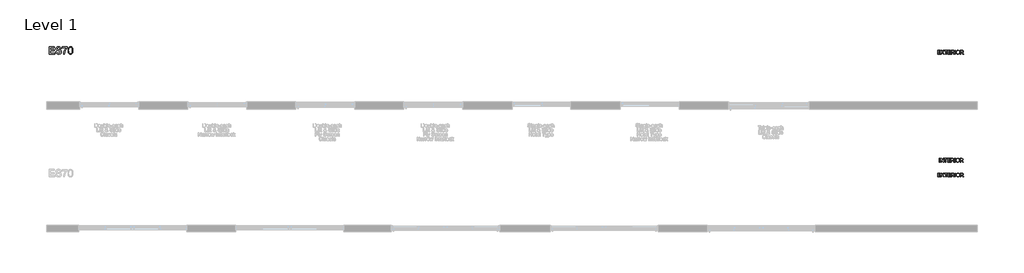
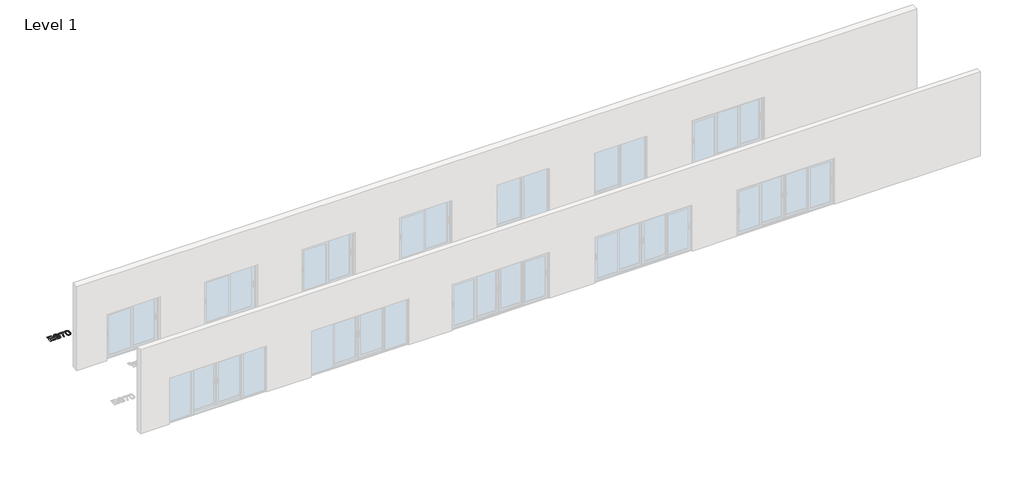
# One storey, part 13 of 13: 4 proxies.
"""IFC4 building model written with IfcOpenShell, lengths in millimetres."""

from ifc_helpers import new_model, si_unit, origin, origin_with_axes, place, context, project, spatial, polyline, outline, extrude, element, save

model = new_model("IFC4")

# Units and contexts
model_context = context("Model", 3, world=origin())
ifc_project = project(units=[si_unit("LENGTHUNIT", "METRE", prefix="MILLI")], contexts=[model_context])

# Site, building, storey
site = spatial("IfcSite", under=ifc_project)
building = spatial("IfcBuilding", under=site)
storey = spatial("IfcBuildingStorey", under=building, Name="Level 1", Elevation=0.0)

# Proxies
placement = place(None, origin())
element("IfcBuildingElementProxy", 1, Name="150mm Arial", ObjectType="150mm Arial", at=placement, inside=storey, context=model_context, shape_type="SweptSolid", body=[
    extrude(outline(polyline([(28115.5972472, 2081.2868462), (28115.5972472, 2231.9713114), (28223.9017066, 2231.9713114), (28223.9017066, 2213.1357532), (28134.4328053, 2213.1357532), (28134.4328053, 2168.4013026), (28219.192817, 2168.4013026), (28219.192817, 2149.5657445), (28134.4328053, 2149.5657445), (28134.4328053, 2100.1224043), (28226.2561513, 2100.1224043), (28226.2561513, 2081.2868462), (28115.5972472, 2081.2868462)])), origin_with_axes(), (0.0, 0.0, 1.0), 10.0),
    extrude(outline(polyline([(28238.0283752, 2081.2868462), (28296.1169422, 2163.3981075), (28247.4461543, 2231.9713114), (28270.0341088, 2231.9713114), (28297.4413174, 2193.3804901), (28306.6751555, 2178.3341165), (28317.4908861, 2193.6380075), (28344.6037892, 2231.9713114), (28367.5228375, 2231.9713114), (28318.8520495, 2163.1773783), (28376.9406166, 2081.2868462), (28354.3526621, 2081.2868462), (28315.6514762, 2135.8805342), (28307.5948605, 2147.2112997), (28298.7289044, 2134.7768883), (28260.9474235, 2081.2868462), (28238.0283752, 2081.2868462)])), origin_with_axes(), (0.0, 0.0, 1.0), 10.0),
    extrude(outline(polyline([(28433.447291, 2081.2868462), (28433.447291, 2213.1357532), (28384.0039509, 2213.1357532), (28384.0039509, 2231.9713114), (28501.7261893, 2231.9713114), (28501.7261893, 2213.1357532), (28452.2828492, 2213.1357532), (28452.2828492, 2081.2868462), (28433.447291, 2081.2868462)])), origin_with_axes(), (0.0, 0.0, 1.0), 10.0),
    extrude(outline(polyline([(28522.9161922, 2081.2868462), (28522.9161922, 2231.9713114), (28631.2206516, 2231.9713114), (28631.2206516, 2213.1357532), (28541.7517504, 2213.1357532), (28541.7517504, 2168.4013026), (28626.5117621, 2168.4013026), (28626.5117621, 2149.5657445), (28541.7517504, 2149.5657445), (28541.7517504, 2100.1224043), (28633.5750964, 2100.1224043), (28633.5750964, 2081.2868462), (28522.9161922, 2081.2868462)])), origin_with_axes(), (0.0, 0.0, 1.0), 10.0),
    extrude(outline(polyline([(28661.8284336, 2081.2868462), (28661.8284336, 2231.9713114), (28726.7596058, 2231.9713114), (28756.9075353, 2227.9062153), (28766.1873586, 2222.2776208), (28773.3886487, 2213.5220293), (28778.0101662, 2202.6649119), (28779.5506721, 2190.7317397), (28776.9984907, 2175.8877012), (28769.3419467, 2163.5820485), (28756.3511138, 2154.5597425), (28737.7960656, 2149.5657445), (28748.5014317, 2141.5091288), (28763.7685345, 2122.1217476), (28788.8948748, 2081.2868462), (28767.005896, 2081.2868462), (28747.3977857, 2112.5200275), (28733.2343289, 2133.1949957), (28723.2831209, 2142.9622626), (28714.3251943, 2146.5491121), (28703.3990991, 2147.2112997), (28680.6639918, 2147.2112997), (28680.6639918, 2081.2868462), (28661.8284336, 2081.2868462)]), holes=[polyline([(28680.6639918, 2166.0468578), (28722.8232684, 2166.0468578), (28744.325971, 2168.7140023), (28756.5396533, 2177.2488646), (28760.7151139, 2190.0327639), (28758.7239526, 2199.2206168), (28752.7504687, 2206.6242419), (28742.4727655, 2211.5078754), (28727.5689462, 2213.1357532), (28680.6639918, 2213.1357532), (28680.6639918, 2166.0468578)])]), origin_with_axes(), (0.0, 0.0, 1.0), 10.0),
    extrude(outline(polyline([(28814.8673436, 2081.2868462), (28814.8673436, 2231.9713114), (28833.7029018, 2231.9713114), (28833.7029018, 2081.2868462), (28814.8673436, 2081.2868462)])), origin_with_axes(), (0.0, 0.0, 1.0), 10.0),
    extrude(outline(polyline([(28864.3106838, 2154.642516), (28869.332273, 2187.9634277), (28875.6092595, 2201.5819593), (28884.3970407, 2213.1725414), (28907.3988625, 2229.0374525), (28936.2316138, 2234.3257562), (28955.996074, 2231.8425527), (28973.7187891, 2224.3929423), (28988.4340689, 2212.5011568), (28999.1762232, 2196.691428), (29005.7429168, 2177.7271112), (29007.9318147, 2156.3715614), (29005.6279537, 2134.730903), (28998.7163707, 2115.4998717), (28987.5787433, 2099.6625518), (28972.5967491, 2088.2030277), (28955.0257853, 2081.250058), (28936.1212492, 2078.9324014), (28916.0532864, 2081.4937798), (28898.2294037, 2089.177915), (28883.5509121, 2101.2904296), (28872.9191225, 2117.1369466), (28866.4627934, 2135.370098), (28864.3106838, 2154.642516)]), holes=[polyline([(28883.1462419, 2154.458575), (28886.9124339, 2130.8865362), (28898.2110096, 2112.9246977), (28915.1933622, 2101.5571441), (28936.0108846, 2097.7679595), (28957.1319097, 2101.5939323), (28974.1418534, 2113.0718505), (28985.3576558, 2131.5855119), (28989.0962565, 2156.5187142), (28987.4959699, 2173.1929656), (28982.6951098, 2187.6047428), (28974.8178366, 2199.3907622), (28963.9883104, 2208.1877404), (28950.923901, 2213.6645836), (28936.3419784, 2215.490198), (28916.0808775, 2211.9723264), (28898.8548031, 2201.4187117), (28887.0733822, 2182.6429344), (28883.1462419, 2154.458575)])]), origin_with_axes(), (0.0, 0.0, 1.0), 10.0),
    extrude(outline(polyline([(29033.8307072, 2081.2868462), (29033.8307072, 2231.9713114), (29098.7618793, 2231.9713114), (29128.9098088, 2227.9062153), (29138.1896321, 2222.2776208), (29145.3909222, 2213.5220293), (29150.0124398, 2202.6649119), (29151.5529456, 2190.7317397), (29149.0007643, 2175.8877012), (29141.3442202, 2163.5820485), (29128.3533873, 2154.5597425), (29109.7983392, 2149.5657445), (29120.5037052, 2141.5091288), (29135.770808, 2122.1217476), (29160.8971483, 2081.2868462), (29139.0081696, 2081.2868462), (29119.4000592, 2112.5200275), (29105.2366024, 2133.1949957), (29095.2853944, 2142.9622626), (29086.3274679, 2146.5491121), (29075.4013726, 2147.2112997), (29052.6662653, 2147.2112997), (29052.6662653, 2081.2868462), (29033.8307072, 2081.2868462)]), holes=[polyline([(29052.6662653, 2166.0468578), (29094.825542, 2166.0468578), (29116.3282446, 2168.7140023), (29128.5419268, 2177.2488646), (29132.7173875, 2190.0327639), (29130.7262262, 2199.2206168), (29124.7527423, 2206.6242419), (29114.475039, 2211.5078754), (29099.5712197, 2213.1357532), (29052.6662653, 2213.1357532), (29052.6662653, 2166.0468578)])]), origin_with_axes(), (0.0, 0.0, 1.0), 10.0),
])
element("IfcBuildingElementProxy", 2, Name="150mm Arial", ObjectType="150mm Arial", at=placement, inside=storey, context=model_context, shape_type="SweptSolid", body=[
    extrude(outline(polyline([(28177.951692, -2318.7131538), (28177.951692, -2168.0286886), (28196.7872501, -2168.0286886), (28196.7872501, -2318.7131538), (28177.951692, -2318.7131538)])), origin_with_axes(), (0.0, 0.0, 1.0), 10.0),
    extrude(outline(polyline([(28234.4583664, -2318.7131538), (28234.4583664, -2168.0286886), (28254.6182998, -2168.0286886), (28333.3450467, -2287.4063961), (28333.3450467, -2168.0286886), (28352.1806049, -2168.0286886), (28352.1806049, -2318.7131538), (28332.0206715, -2318.7131538), (28253.2939246, -2199.2986582), (28253.2939246, -2318.7131538), (28234.4583664, -2318.7131538)])), origin_with_axes(), (0.0, 0.0, 1.0), 10.0),
    extrude(outline(polyline([(28422.8139479, -2318.7131538), (28422.8139479, -2186.8642468), (28373.3706078, -2186.8642468), (28373.3706078, -2168.0286886), (28491.0928463, -2168.0286886), (28491.0928463, -2186.8642468), (28441.6495061, -2186.8642468), (28441.6495061, -2318.7131538), (28422.8139479, -2318.7131538)])), origin_with_axes(), (0.0, 0.0, 1.0), 10.0),
    extrude(outline(polyline([(28512.2828492, -2318.7131538), (28512.2828492, -2168.0286886), (28620.5873086, -2168.0286886), (28620.5873086, -2186.8642468), (28531.1184073, -2186.8642468), (28531.1184073, -2231.5986974), (28615.878419, -2231.5986974), (28615.878419, -2250.4342555), (28531.1184073, -2250.4342555), (28531.1184073, -2299.8775957), (28622.9417533, -2299.8775957), (28622.9417533, -2318.7131538), (28512.2828492, -2318.7131538)])), origin_with_axes(), (0.0, 0.0, 1.0), 10.0),
    extrude(outline(polyline([(28651.1950906, -2318.7131538), (28651.1950906, -2168.0286886), (28716.1262627, -2168.0286886), (28746.2741922, -2172.0937847), (28755.5540155, -2177.7223792), (28762.7553056, -2186.4779707), (28767.3768232, -2197.3350881), (28768.917329, -2209.2682603), (28766.3651477, -2224.1122988), (28758.7086036, -2236.4179515), (28745.7177707, -2245.4402575), (28727.1627226, -2250.4342555), (28737.8680886, -2258.4908712), (28753.1351914, -2277.8782524), (28778.2615317, -2318.7131538), (28756.372553, -2318.7131538), (28736.7644426, -2287.4799725), (28722.6009858, -2266.8050043), (28712.6497778, -2257.0377374), (28703.6918513, -2253.4508879), (28692.765756, -2252.7887003), (28670.0306487, -2252.7887003), (28670.0306487, -2318.7131538), (28651.1950906, -2318.7131538)]), holes=[polyline([(28670.0306487, -2233.9531422), (28712.1899254, -2233.9531422), (28733.692628, -2231.2859977), (28745.9063102, -2222.7511354), (28750.0817709, -2209.9672361), (28748.0906096, -2200.7793832), (28742.1171257, -2193.3757581), (28731.8394224, -2188.4921246), (28716.9356031, -2186.8642468), (28670.0306487, -2186.8642468), (28670.0306487, -2233.9531422)])]), origin_with_axes(), (0.0, 0.0, 1.0), 10.0),
    extrude(outline(polyline([(28804.2340005, -2318.7131538), (28804.2340005, -2168.0286886), (28823.0695587, -2168.0286886), (28823.0695587, -2318.7131538), (28804.2340005, -2318.7131538)])), origin_with_axes(), (0.0, 0.0, 1.0), 10.0),
    extrude(outline(polyline([(28853.6773407, -2245.357484), (28858.6989299, -2212.0365723), (28864.9759165, -2198.4180407), (28873.7636976, -2186.8274586), (28896.7655194, -2170.9625475), (28925.5982708, -2165.6742438), (28945.3627309, -2168.1574473), (28963.0854461, -2175.6070577), (28977.8007259, -2187.4988432), (28988.5428801, -2203.308572), (28995.1095737, -2222.2728888), (28997.2984716, -2243.6284386), (28994.9946106, -2265.269097), (28988.0830276, -2284.5001283), (28976.9454002, -2300.3374482), (28961.963406, -2311.7969723), (28944.3924422, -2318.749942), (28925.4879062, -2321.0675986), (28905.4199433, -2318.5062202), (28887.5960607, -2310.822085), (28872.917569, -2298.7095704), (28862.2857794, -2282.8630534), (28855.8294504, -2264.629902), (28853.6773407, -2245.357484)]), holes=[polyline([(28872.5128989, -2245.541425), (28876.2790908, -2269.1134638), (28887.5776666, -2287.0753023), (28904.5600192, -2298.4428559), (28925.3775416, -2302.2320405), (28946.4985666, -2298.4060677), (28963.5085104, -2286.9281495), (28974.7243127, -2268.4144881), (28978.4629135, -2243.4812858), (28976.8626268, -2226.8070344), (28972.0617667, -2212.3952572), (28964.1844935, -2200.6092378), (28953.3549673, -2191.8122596), (28940.2905579, -2186.3354164), (28925.7086354, -2184.509802), (28905.4475345, -2188.0276736), (28888.22146, -2198.5812883), (28876.4400392, -2217.3570656), (28872.5128989, -2245.541425)])]), origin_with_axes(), (0.0, 0.0, 1.0), 10.0),
    extrude(outline(polyline([(29023.1973641, -2318.7131538), (29023.1973641, -2168.0286886), (29088.1285362, -2168.0286886), (29118.2764657, -2172.0937847), (29127.5562891, -2177.7223792), (29134.7575791, -2186.4779707), (29139.3790967, -2197.3350881), (29140.9196025, -2209.2682603), (29138.3674212, -2224.1122988), (29130.7108772, -2236.4179515), (29117.7200442, -2245.4402575), (29099.1649961, -2250.4342555), (29109.8703621, -2258.4908712), (29125.1374649, -2277.8782524), (29150.2638052, -2318.7131538), (29128.3748265, -2318.7131538), (29108.7667162, -2287.4799725), (29094.6032593, -2266.8050043), (29084.6520514, -2257.0377374), (29075.6941248, -2253.4508879), (29064.7680295, -2252.7887003), (29042.0329222, -2252.7887003), (29042.0329222, -2318.7131538), (29023.1973641, -2318.7131538)]), holes=[polyline([(29042.0329222, -2233.9531422), (29084.1921989, -2233.9531422), (29105.6949015, -2231.2859977), (29117.9085837, -2222.7511354), (29122.0840444, -2209.9672361), (29120.0928831, -2200.7793832), (29114.1193992, -2193.3757581), (29103.8416959, -2188.4921246), (29088.9378766, -2186.8642468), (29042.0329222, -2186.8642468), (29042.0329222, -2233.9531422)])]), origin_with_axes(), (0.0, 0.0, 1.0), 10.0),
])
element("IfcBuildingElementProxy", 3, Name="150mm Arial", ObjectType="150mm Arial", at=placement, inside=storey, context=model_context, shape_type="SweptSolid", body=[
    extrude(outline(polyline([(28115.5972472, -2918.7131538), (28115.5972472, -2768.0286886), (28223.9017066, -2768.0286886), (28223.9017066, -2786.8642468), (28134.4328053, -2786.8642468), (28134.4328053, -2831.5986974), (28219.192817, -2831.5986974), (28219.192817, -2850.4342555), (28134.4328053, -2850.4342555), (28134.4328053, -2899.8775957), (28226.2561513, -2899.8775957), (28226.2561513, -2918.7131538), (28115.5972472, -2918.7131538)])), origin_with_axes(), (0.0, 0.0, 1.0), 10.0),
    extrude(outline(polyline([(28238.0283752, -2918.7131538), (28296.1169422, -2836.6018925), (28247.4461543, -2768.0286886), (28270.0341088, -2768.0286886), (28297.4413174, -2806.6195099), (28306.6751555, -2821.6658835), (28317.4908861, -2806.3619925), (28344.6037892, -2768.0286886), (28367.5228375, -2768.0286886), (28318.8520495, -2836.8226217), (28376.9406166, -2918.7131538), (28354.3526621, -2918.7131538), (28315.6514762, -2864.1194658), (28307.5948605, -2852.7887003), (28298.7289044, -2865.2231117), (28260.9474235, -2918.7131538), (28238.0283752, -2918.7131538)])), origin_with_axes(), (0.0, 0.0, 1.0), 10.0),
    extrude(outline(polyline([(28433.447291, -2918.7131538), (28433.447291, -2786.8642468), (28384.0039509, -2786.8642468), (28384.0039509, -2768.0286886), (28501.7261893, -2768.0286886), (28501.7261893, -2786.8642468), (28452.2828492, -2786.8642468), (28452.2828492, -2918.7131538), (28433.447291, -2918.7131538)])), origin_with_axes(), (0.0, 0.0, 1.0), 10.0),
    extrude(outline(polyline([(28522.9161922, -2918.7131538), (28522.9161922, -2768.0286886), (28631.2206516, -2768.0286886), (28631.2206516, -2786.8642468), (28541.7517504, -2786.8642468), (28541.7517504, -2831.5986974), (28626.5117621, -2831.5986974), (28626.5117621, -2850.4342555), (28541.7517504, -2850.4342555), (28541.7517504, -2899.8775957), (28633.5750964, -2899.8775957), (28633.5750964, -2918.7131538), (28522.9161922, -2918.7131538)])), origin_with_axes(), (0.0, 0.0, 1.0), 10.0),
    extrude(outline(polyline([(28661.8284336, -2918.7131538), (28661.8284336, -2768.0286886), (28726.7596058, -2768.0286886), (28756.9075353, -2772.0937847), (28766.1873586, -2777.7223792), (28773.3886487, -2786.4779707), (28778.0101662, -2797.3350881), (28779.5506721, -2809.2682603), (28776.9984907, -2824.1122988), (28769.3419467, -2836.4179515), (28756.3511138, -2845.4402575), (28737.7960656, -2850.4342555), (28748.5014317, -2858.4908712), (28763.7685345, -2877.8782524), (28788.8948748, -2918.7131538), (28767.005896, -2918.7131538), (28747.3977857, -2887.4799725), (28733.2343289, -2866.8050043), (28723.2831209, -2857.0377374), (28714.3251943, -2853.4508879), (28703.3990991, -2852.7887003), (28680.6639918, -2852.7887003), (28680.6639918, -2918.7131538), (28661.8284336, -2918.7131538)]), holes=[polyline([(28680.6639918, -2833.9531422), (28722.8232684, -2833.9531422), (28744.325971, -2831.2859977), (28756.5396533, -2822.7511354), (28760.7151139, -2809.9672361), (28758.7239526, -2800.7793832), (28752.7504687, -2793.3757581), (28742.4727655, -2788.4921246), (28727.5689462, -2786.8642468), (28680.6639918, -2786.8642468), (28680.6639918, -2833.9531422)])]), origin_with_axes(), (0.0, 0.0, 1.0), 10.0),
    extrude(outline(polyline([(28814.8673436, -2918.7131538), (28814.8673436, -2768.0286886), (28833.7029018, -2768.0286886), (28833.7029018, -2918.7131538), (28814.8673436, -2918.7131538)])), origin_with_axes(), (0.0, 0.0, 1.0), 10.0),
    extrude(outline(polyline([(28864.3106838, -2845.357484), (28869.332273, -2812.0365723), (28875.6092595, -2798.4180407), (28884.3970407, -2786.8274586), (28907.3988625, -2770.9625475), (28936.2316138, -2765.6742438), (28955.996074, -2768.1574473), (28973.7187891, -2775.6070577), (28988.4340689, -2787.4988432), (28999.1762232, -2803.308572), (29005.7429168, -2822.2728888), (29007.9318147, -2843.6284386), (29005.6279537, -2865.269097), (28998.7163707, -2884.5001283), (28987.5787433, -2900.3374482), (28972.5967491, -2911.7969723), (28955.0257853, -2918.749942), (28936.1212492, -2921.0675986), (28916.0532864, -2918.5062202), (28898.2294037, -2910.822085), (28883.5509121, -2898.7095704), (28872.9191225, -2882.8630534), (28866.4627934, -2864.629902), (28864.3106838, -2845.357484)]), holes=[polyline([(28883.1462419, -2845.541425), (28886.9124339, -2869.1134638), (28898.2110096, -2887.0753023), (28915.1933622, -2898.4428559), (28936.0108846, -2902.2320405), (28957.1319097, -2898.4060677), (28974.1418534, -2886.9281495), (28985.3576558, -2868.4144881), (28989.0962565, -2843.4812858), (28987.4959699, -2826.8070344), (28982.6951098, -2812.3952572), (28974.8178366, -2800.6092378), (28963.9883104, -2791.8122596), (28950.923901, -2786.3354164), (28936.3419784, -2784.509802), (28916.0808775, -2788.0276736), (28898.8548031, -2798.5812883), (28887.0733822, -2817.3570656), (28883.1462419, -2845.541425)])]), origin_with_axes(), (0.0, 0.0, 1.0), 10.0),
    extrude(outline(polyline([(29033.8307072, -2918.7131538), (29033.8307072, -2768.0286886), (29098.7618793, -2768.0286886), (29128.9098088, -2772.0937847), (29138.1896321, -2777.7223792), (29145.3909222, -2786.4779707), (29150.0124398, -2797.3350881), (29151.5529456, -2809.2682603), (29149.0007643, -2824.1122988), (29141.3442202, -2836.4179515), (29128.3533873, -2845.4402575), (29109.7983392, -2850.4342555), (29120.5037052, -2858.4908712), (29135.770808, -2877.8782524), (29160.8971483, -2918.7131538), (29139.0081696, -2918.7131538), (29119.4000592, -2887.4799725), (29105.2366024, -2866.8050043), (29095.2853944, -2857.0377374), (29086.3274679, -2853.4508879), (29075.4013726, -2852.7887003), (29052.6662653, -2852.7887003), (29052.6662653, -2918.7131538), (29033.8307072, -2918.7131538)]), holes=[polyline([(29052.6662653, -2833.9531422), (29094.825542, -2833.9531422), (29116.3282446, -2831.2859977), (29128.5419268, -2822.7511354), (29132.7173875, -2809.9672361), (29130.7262262, -2800.7793832), (29124.7527423, -2793.3757581), (29114.475039, -2788.4921246), (29099.5712197, -2786.8642468), (29052.6662653, -2786.8642468), (29052.6662653, -2833.9531422)])]), origin_with_axes(), (0.0, 0.0, 1.0), 10.0),
])
element("IfcBuildingElementProxy", 4, Name="300mm Arial", ObjectType="300mm Arial", at=placement, inside=storey, context=model_context, shape_type="SweptSolid", body=[
    extrude(outline(polyline([(-8067.9216394, 2081.2868462), (-8067.9216394, 2382.6557766), (-7851.3127207, 2382.6557766), (-7851.3127207, 2344.9846603), (-8030.2505231, 2344.9846603), (-8030.2505231, 2255.5157591), (-7860.7304997, 2255.5157591), (-7860.7304997, 2217.8446428), (-8030.2505231, 2217.8446428), (-8030.2505231, 2118.9579625), (-7846.6038311, 2118.9579625), (-7846.6038311, 2081.2868462), (-8067.9216394, 2081.2868462)])), origin_with_axes(), (0.0, 0.0, 1.0), 10.0),
    extrude(outline(polyline([(-7804.2238253, 2184.882416), (-7766.552709, 2184.882416), (-7762.2300955, 2163.9775216), (-7754.4126031, 2147.1745115), (-7742.217315, 2133.8387892), (-7724.7613143, 2123.3357582), (-7703.4241586, 2116.5207442), (-7679.5854053, 2114.2490729), (-7658.5977375, 2115.9689213), (-7640.2220318, 2121.1284662), (-7625.3320081, 2129.2954465), (-7614.801386, 2140.0376008), (-7608.538195, 2152.3708447), (-7606.4504647, 2165.3110939), (-7608.0139632, 2177.9202492), (-7612.7044586, 2188.8187533), (-7622.2326023, 2198.1169708), (-7638.3090455, 2205.9252661), (-7693.1602509, 2220.3094521), (-7729.1667012, 2229.8283988), (-7752.2053112, 2238.8874929), (-7770.9580959, 2251.5610276), (-7784.2478329, 2266.9201009), (-7792.1664929, 2284.633619), (-7794.8060462, 2304.370488), (-7791.5410935, 2326.4342107), (-7781.7462354, 2347.0080113), (-7765.6789892, 2364.4456178), (-7743.5968725, 2377.1007585), (-7717.0909747, 2384.7986892), (-7687.7523856, 2387.3646661), (-7655.9673812, 2384.6791276), (-7628.1555024, 2376.6225119), (-7605.3100305, 2363.360366), (-7588.4242469, 2345.0582367), (-7577.737275, 2322.8565583), (-7573.4882379, 2297.8957649), (-7611.1593542, 2297.8957649), (-7618.0755357, 2320.3733548), (-7632.4965099, 2336.5969508), (-7655.0292821, 2346.4194001), (-7686.2808576, 2349.6935498), (-7718.2681971, 2346.4561883), (-7740.2123581, 2336.7441036), (-7752.904287, 2322.4518881), (-7757.1349299, 2305.474134), (-7754.1366916, 2290.9979775), (-7745.1419769, 2279.3545124), (-7723.8783975, 2268.9434519), (-7683.6321073, 2258.3116622), (-7642.09823, 2248.2133015), (-7616.9718897, 2239.4025277), (-7595.4967783, 2225.7357116), (-7580.514784, 2208.8683221), (-7571.7132073, 2188.9843002), (-7568.7793484, 2166.267587), (-7572.1546657, 2143.0450361), (-7582.2806176, 2121.2020426), (-7598.7433369, 2102.4032727), (-7621.1289563, 2088.3133923), (-7648.0487213, 2079.5118155), (-7678.1138773, 2076.5779566), (-7715.0216385, 2079.7417418), (-7745.3994943, 2089.2330973), (-7769.5969325, 2105.0888112), (-7787.9634411, 2127.345672), (-7799.754059, 2154.458575), (-7804.2238253, 2184.882416)])), origin_with_axes(), (0.0, 0.0, 1.0), 10.0),
    extrude(outline(polyline([(-7526.3993425, 2340.2757708), (-7526.3993425, 2377.9468871), (-7328.6259819, 2377.9468871), (-7328.6259819, 2347.4862579), (-7356.8149398, 2311.8109014), (-7384.7279862, 2266.4418543), (-7409.3484887, 2215.5177891), (-7427.659815, 2163.1773783), (-7436.6361357, 2124.0163399), (-7441.6393308, 2081.2868462), (-7479.3104471, 2081.2868462), (-7475.236154, 2120.1167907), (-7464.3376499, 2166.267587), (-7446.9092404, 2215.1866954), (-7423.2452311, 2262.321576), (-7395.6172932, 2304.9315081), (-7366.2970982, 2340.2757708), (-7526.3993425, 2340.2757708)])), origin_with_axes(), (0.0, 0.0, 1.0), 10.0),
    extrude(outline(polyline([(-7295.6637552, 2229.5432902), (-7292.8954431, 2277.7818168), (-7284.5905071, 2316.2530765), (-7270.8317205, 2345.5456803), (-7251.7018567, 2366.2482396), (-7227.0629601, 2378.5538924), (-7196.7770748, 2382.6557766), (-7173.563721, 2380.2277554), (-7152.7783882, 2372.9436919), (-7135.395964, 2361.0886946), (-7122.3913354, 2344.9478721), (-7112.5688862, 2324.6591801), (-7104.7329997, 2300.3605743), (-7099.6010458, 2269.5044719), (-7097.8903945, 2229.5432902), (-7100.6311154, 2181.5806751), (-7108.853278, 2143.2013859), (-7122.5292912, 2113.8811909), (-7141.6315638, 2093.0958582), (-7166.3256427, 2080.707432), (-7196.7770748, 2076.5779566), (-7217.5256194, 2078.3713813), (-7235.9197191, 2083.7516555), (-7251.9593741, 2092.7187792), (-7265.6445843, 2105.2727522), (-7278.7779716, 2127.9664728), (-7288.1589625, 2156.2428027), (-7293.787557, 2190.1017418), (-7295.6637552, 2229.5432902)]), holes=[polyline([(-7257.9926388, 2229.6168666), (-7253.5780549, 2170.3602742), (-7248.059825, 2150.0922756), (-7240.3343031, 2136.0644752), (-7220.6158281, 2119.7029235), (-7196.7770748, 2114.2490729), (-7172.9383216, 2119.7213176), (-7153.2198466, 2136.1380516), (-7145.4943247, 2150.1888446), (-7139.9760948, 2170.4522447), (-7135.5615109, 2229.6168666), (-7139.828942, 2287.5398868), (-7145.1632309, 2307.7412068), (-7152.6312354, 2322.1024002), (-7172.3129222, 2339.2640953), (-7197.2185332, 2344.9846603), (-7220.7997691, 2339.944677), (-7239.7456919, 2324.824727), (-7247.7287312, 2309.1897422), (-7253.4309021, 2288.1101038), (-7257.9926388, 2229.6168666)])]), origin_with_axes(), (0.0, 0.0, 1.0), 10.0),
])

save(model, "model.ifc")
